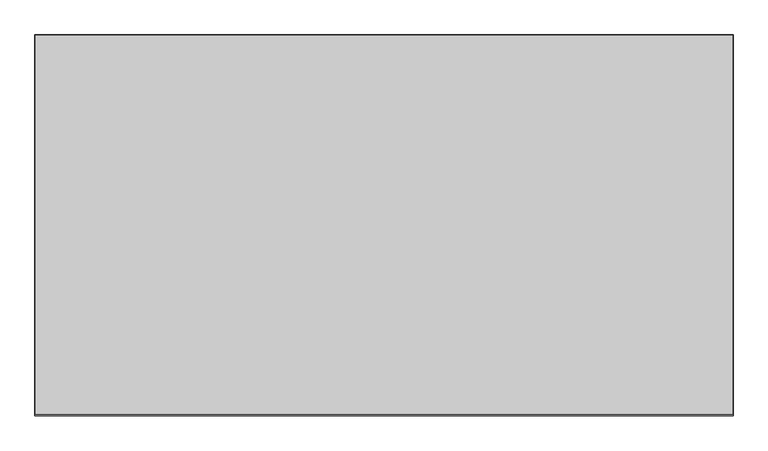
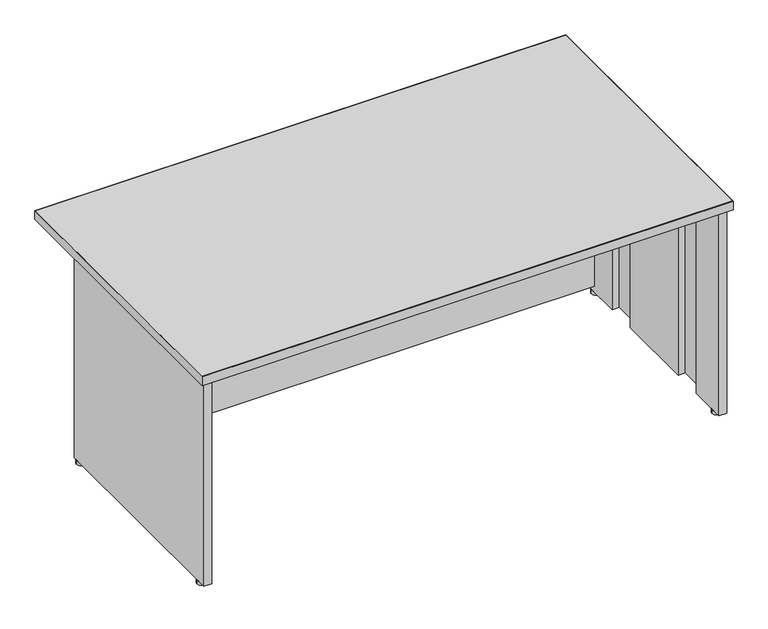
"""IFC4 building model written with IfcOpenShell, lengths in millimetres: furniture geometry, Steelcase - Kick Freestanding - Desk Shell - Full Height Modesty Panel : 36D x 66W."""

from ifc_helpers import new_model, si_unit, point, frame, frame_2d, origin, origin_with_axes, place, context, project, spatial, polyline, circle_curve, trimmed, segment, composite_curve, outline, extrude, source, transform, mapped, element, save


def furniture_cfb9e189(model_context):
    return source(origin(), model_context, "Body", "SweptSolid", [
        extrude(outline(polyline([(677.0450425, -1152.3647597), (677.0450425, -1126.9647604), (2279.0738425, -1126.9647604), (2279.0738425, -1152.3647597), (677.0450425, -1152.3647597)])), frame((0.0, 0.0, 31.242), z_axis=(0.0, 0.0, 1.0), x_axis=(1.0, 0.0, 0.0)), (0.0, 0.0, 1.0), 663.702),
        extrude(outline(composite_curve([segment(trimmed(circle_curve(frame_2d((665.1357759, -1139.3367877)), 13.97), [point((651.1657759, -1139.3367877))], [point((679.1057759, -1139.3367877))], False, "CARTESIAN"), True, "CONTINUOUS"), segment(trimmed(circle_curve(frame_2d((665.1357759, -1139.3367877)), 13.97), [point((679.1057759, -1139.3367877))], [point((651.1657759, -1139.3367877))], False, "CARTESIAN"), True, "CONTINUOUS")], self_intersect=False)), origin_with_axes(), (0.0, 0.0, 1.0), 12.446),
        extrude(outline(composite_curve([segment(trimmed(circle_curve(frame_2d((665.1357759, -1798.4441481)), 13.97), [point((651.1657759, -1798.4441481))], [point((679.1057759, -1798.4441481))], False, "CARTESIAN"), True, "CONTINUOUS"), segment(trimmed(circle_curve(frame_2d((665.1357759, -1798.4441481)), 13.97), [point((679.1057759, -1798.4441481))], [point((651.1657759, -1798.4441481))], False, "CARTESIAN"), True, "CONTINUOUS")], self_intersect=False)), origin_with_axes(), (0.0, 0.0, 1.0), 12.446),
        extrude(outline(polyline([(2279.0738425, -1248.4529604), (2279.0738425, -1125.1867604), (2303.5594421, -1125.1867604), (2303.5594421, -1833.338741), (2279.0738421, -1833.338741), (2279.0738421, -1709.0311348), (2301.5020425, -1709.0311348), (2301.5020425, -1609.3107682), (2279.0738421, -1609.3107682), (2279.0738421, -1348.1733647), (2301.5020425, -1348.1733647), (2301.5020425, -1248.4529604), (2279.0738425, -1248.4529604)])), frame((0.0, 0.0, 12.446), z_axis=(0.0, 0.0, 1.0), x_axis=(1.0, 0.0, 0.0)), (0.0, 0.0, 1.0), 682.498),
        extrude(outline(polyline([(677.0450425, -1248.4529604), (654.6168425, -1248.4529604), (654.6168425, -1348.1733647), (677.0450429, -1348.1733647), (677.0450429, -1609.3107682), (654.6168425, -1609.3107682), (654.6168425, -1709.0311348), (677.0450429, -1709.0311348), (677.0450429, -1833.338741), (652.5594429, -1833.338741), (652.5594429, -1125.1867604), (677.0450425, -1125.1867604), (677.0450425, -1248.4529604)])), frame((0.0, 0.0, 12.446), z_axis=(0.0, 0.0, 1.0), x_axis=(1.0, 0.0, 0.0)), (0.0, 0.0, 1.0), 682.498),
        extrude(outline(polyline([(2315.2688425, -932.6293604), (2315.2688425, -1843.0669215), (640.8500425, -1843.0669215), (640.8500425, -932.6293604), (2315.2688425, -932.6293604)])), frame((0.0, 0.0, 694.944), z_axis=(0.0, 0.0, 1.0), x_axis=(1.0, 0.0, 0.0)), (0.0, 0.0, 1.0), 28.956),
        extrude(outline(polyline([(2316.2594425, -931.6387604), (2316.2594425, -1846.0387604), (639.8594425, -1846.0387604), (639.8594425, -931.6387604), (2316.2594425, -931.6387604)]), holes=[polyline([(2315.2688425, -932.6293604), (640.8500425, -932.6293604), (640.8500425, -1843.0669215), (2315.2688425, -1843.0669215), (2315.2688425, -932.6293604)])]), frame((0.0, 0.0, 694.944), z_axis=(0.0, 0.0, 1.0), x_axis=(1.0, 0.0, 0.0)), (0.0, 0.0, 1.0), 28.956),
        extrude(outline(composite_curve([segment(trimmed(circle_curve(frame_2d((2290.9831091, -1798.4441481)), 13.97), [point((2277.0131091, -1798.4441481))], [point((2304.9531091, -1798.4441481))], False, "CARTESIAN"), True, "CONTINUOUS"), segment(trimmed(circle_curve(frame_2d((2290.9831091, -1798.4441481)), 13.97), [point((2304.9531091, -1798.4441481))], [point((2277.0131091, -1798.4441481))], False, "CARTESIAN"), True, "CONTINUOUS")], self_intersect=False)), origin_with_axes(), (0.0, 0.0, 1.0), 12.446),
        extrude(outline(composite_curve([segment(trimmed(circle_curve(frame_2d((2290.9831091, -1139.3367877)), 13.97), [point((2304.9531091, -1139.3367877))], [point((2277.0131091, -1139.3367877))], False, "CARTESIAN"), True, "CONTINUOUS"), segment(trimmed(circle_curve(frame_2d((2290.9831091, -1139.3367877)), 13.97), [point((2277.0131091, -1139.3367877))], [point((2304.9531091, -1139.3367877))], False, "CARTESIAN"), True, "CONTINUOUS")], self_intersect=False)), origin_with_axes(), (0.0, 0.0, 1.0), 12.446),
    ])


if __name__ == "__main__":
    model = new_model("IFC4")
    model_context = context("Model", 3, world=origin())
    ifc_project = project(units=[si_unit("LENGTHUNIT", "METRE", prefix="MILLI")], contexts=[model_context])
    site = spatial("IfcSite", under=ifc_project)
    building = spatial("IfcBuilding", under=site)
    placement = place(None, origin())
    furniture_shape = furniture_cfb9e189(model_context)
    element("IfcFurniture", 1, ObjectType="Steelcase - Kick Freestanding - Desk Shell - Full Height Modesty Panel : 36D x 66W", at=placement, inside=building, context=model_context, shape_type="MappedRepresentation", body=[
        mapped(furniture_shape, transform((0.0, 0.0, 0.0), x_axis=(1.0, 0.0, 0.0), y_axis=(0.0, 1.0, 0.0), z_axis=(0.0, 0.0, 1.0))),
    ])
    save(model, "model.ifc")
